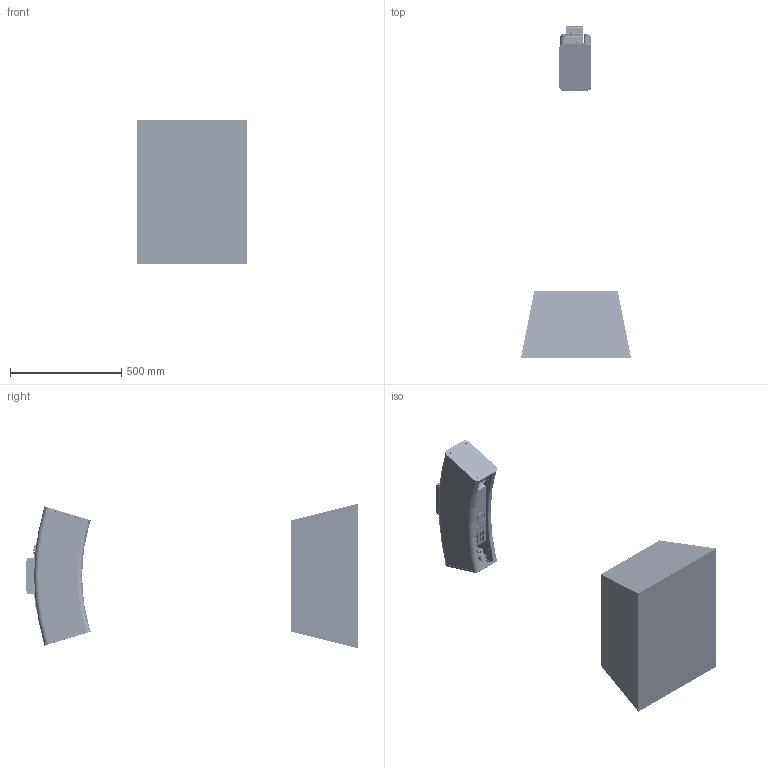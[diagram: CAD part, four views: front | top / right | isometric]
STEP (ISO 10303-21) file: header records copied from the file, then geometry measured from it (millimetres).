
FILE_DESCRIPTION((''),'2;1');
FILE_NAME('0000830494_ASM','2026-02-16T10:00:26',('11001218'),(''),'CREO PARAMETRIC BY PTC INC, 2023154','CREO PARAMETRIC BY PTC INC, 2023154','');
FILE_SCHEMA(('CONFIG_CONTROL_DESIGN'));
Products named in the file (47): 0000821022; 0000826206; 0000828761; 0000827164_ASM; 0000825718; 0000825732; 0000827199; 0000829351; 0000828150_ASM; 0000830611; 0000830456_ASM; 0000830457_ASM; 0000829062; GT218300-02-XX; 0000842409; SC26XX_CAMERA_IO_BOARD; PXC_1249211_01_00_SACC-DSIV-M12; 0000829855; 0000829982; 0000830604; 0000830479_ASM; 0000427151; 0000427153; 0000826972; 0000013146; 0000821173; 0000826927_ASM; 0000827048; VS-MC16H1; 0000194705; 0000013112; 0000024246; 0000145117; 0000013114; 0466016; 0000026021; 0000026018; 0000012527; 0000026036; 0000829387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
Assembly tree (72 placements, depth 6):
  0000830494_ASM
    0000827164_ASM
      0000821022
      0000826206
      0000828761  x2
    0000830479_ASM
      0000830457_ASM
        0000830456_ASM
          0000825718
          0000828150_ASM
            0000825732
            0000827199
            0000829351  x4
          0000830611
      0000829062  x2
      GT218300-02-XX  x2
      0000842409
      SC26XX_CAMERA_IO_BOARD  x2
      PXC_1249211_01_00_SACC-DSIV-M12
      0000829855
      0000829982  x3
      0000830604
    0000427151  x2
    0000427153
    0000826971_ASM  x2
      0000826972
      0000013146
      0000821173
      0000826927_ASM
      0000827048
      VS-MC16H1
      0000194705
      0000013112
      0000024246
      0000145117
      0000013114
      0466016
      0000026021
      0000026018
      0000012527
      0000026036
      0000829387
    0000016432  x2
    0000826884
    0000830586
    0000892254
    0000433295
Bounding box: 495 x 1491.73 x 650 mm (x, y, z)
Volume: 80521083.4 mm3; surface area: 2877513 mm2
Topology: 215 solids, 959 shells, 19308 faces, 59145 edges, 41811 vertices
Faces by surface type: plane 11483, cylinder 5194, cone 825, bspline 689, extrusion 452, torus 443, sphere 222
Entity records: 641072 total; most frequent: CARTESIAN_POINT 224709, ORIENTED_EDGE 85167, DIRECTION 80244, EDGE_CURVE 47380, VERTEX_POINT 33838, VECTOR 32970, LINE 32557, AXIS2_PLACEMENT_3D 23637
